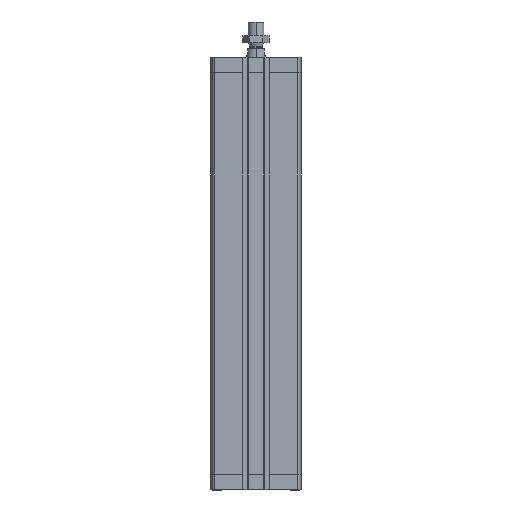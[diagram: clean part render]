
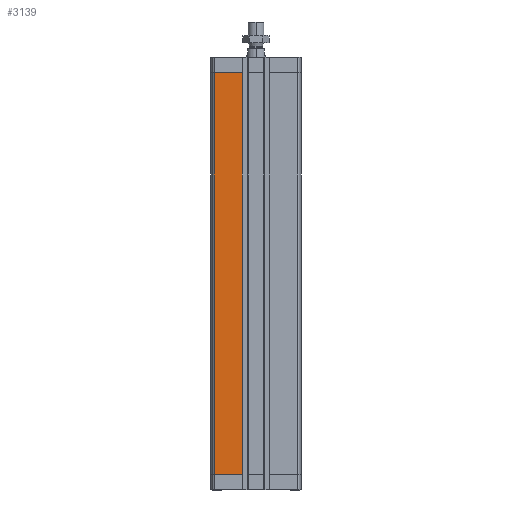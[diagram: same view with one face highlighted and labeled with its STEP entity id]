
A CAD part, left-side view. The second image highlights one B-rep face of the part: STEP entity #3139.
In plain terms, the highlighted planar face has unit normal (-1, 0, 0).
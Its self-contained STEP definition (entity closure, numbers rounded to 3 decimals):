
#685 = DIRECTION ( 'NONE',  ( 0., 1., 0. ) ) ;
#1212 = VERTEX_POINT ( 'NONE', #13799 ) ;
#1350 = DIRECTION ( 'NONE',  ( 0., -1., 0. ) ) ;
#1460 = DIRECTION ( 'NONE',  ( 0., 0., -1. ) ) ;
#1483 = CARTESIAN_POINT ( 'NONE',  ( -47.5, 43.743, -437.5 ) ) ;
#1661 = LINE ( 'NONE', #8668, #11238 ) ;
#2553 = CARTESIAN_POINT ( 'NONE',  ( -47.5, 43.743, -437.5 ) ) ;
#3139 = ADVANCED_FACE ( 'NONE', ( #14738 ), #13973, .T. ) ;
#3659 = AXIS2_PLACEMENT_3D ( 'NONE', #1483, #15182, #7747 ) ;
#4152 = ORIENTED_EDGE ( 'NONE', *, *, #5265, .T. ) ;
#5265 = EDGE_CURVE ( 'NONE', #1212, #9640, #8631, .T. ) ;
#6153 = ORIENTED_EDGE ( 'NONE', *, *, #12537, .T. ) ;
#6748 = VECTOR ( 'NONE', #1460, 1000. ) ;
#7148 = LINE ( 'NONE', #2553, #13374 ) ;
#7747 = DIRECTION ( 'NONE',  ( 0., 0., 1. ) ) ;
#8245 = VECTOR ( 'NONE', #685, 1000. ) ;
#8631 = LINE ( 'NONE', #9371, #8245 ) ;
#8668 = CARTESIAN_POINT ( 'NONE',  ( -47.5, 14.3, -437.5 ) ) ;
#8928 = CARTESIAN_POINT ( 'NONE',  ( -47.5, 43.743, -437.5 ) ) ;
#9125 = CARTESIAN_POINT ( 'NONE',  ( -47.5, 43.743, -437.5 ) ) ;
#9371 = CARTESIAN_POINT ( 'NONE',  ( -47.5, 0., -16.5 ) ) ;
#9640 = VERTEX_POINT ( 'NONE', #10937 ) ;
#10302 = VERTEX_POINT ( 'NONE', #9125 ) ;
#10937 = CARTESIAN_POINT ( 'NONE',  ( -47.5, 43.743, -16.5 ) ) ;
#11238 = VECTOR ( 'NONE', #13614, 1000. ) ;
#11434 = ORIENTED_EDGE ( 'NONE', *, *, #12567, .T. ) ;
#12298 = EDGE_LOOP ( 'NONE', ( #6153, #12354, #4152, #11434 ) ) ;
#12354 = ORIENTED_EDGE ( 'NONE', *, *, #12459, .T. ) ;
#12459 = EDGE_CURVE ( 'NONE', #15834, #1212, #1661, .T. ) ;
#12537 = EDGE_CURVE ( 'NONE', #10302, #15834, #7148, .T. ) ;
#12567 = EDGE_CURVE ( 'NONE', #9640, #10302, #15879, .T. ) ;
#13374 = VECTOR ( 'NONE', #1350, 1000. ) ;
#13590 = CARTESIAN_POINT ( 'NONE',  ( -47.5, 14.3, -437.5 ) ) ;
#13614 = DIRECTION ( 'NONE',  ( 0., 0., 1. ) ) ;
#13799 = CARTESIAN_POINT ( 'NONE',  ( -47.5, 14.3, -16.5 ) ) ;
#13973 = PLANE ( 'NONE',  #3659 ) ;
#14738 = FACE_OUTER_BOUND ( 'NONE', #12298, .T. ) ;
#15182 = DIRECTION ( 'NONE',  ( -1., 0., 0. ) ) ;
#15834 = VERTEX_POINT ( 'NONE', #13590 ) ;
#15879 = LINE ( 'NONE', #8928, #6748 ) ;
